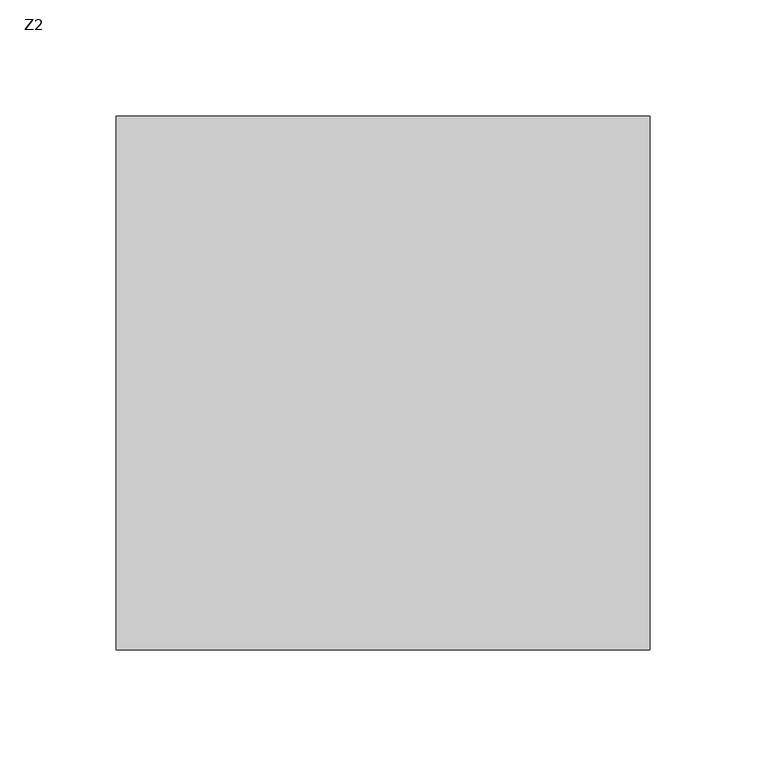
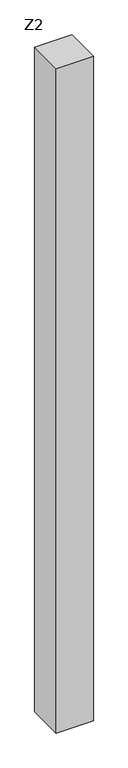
"""IFC4 building model written with IfcOpenShell, lengths in millimetres: column geometry, 混凝土 - 矩形 - 柱 : Z2."""

from ifc_helpers import new_model, si_unit, frame, origin, place, context, project, spatial, polyline, outline, extrude, source, transform, mapped, element, save


def z2_b35763e6(model_context):
    return source(origin(), model_context, "Body", "SweptSolid", [
        extrude(outline(polyline([(115.0, 115.0), (115.0, -115.0), (-115.0, -115.0), (-115.0, 115.0), (115.0, 115.0)])), frame((0.0, 0.0, -450.0), z_axis=(0.0, 0.0, 1.0), x_axis=(1.0, 0.0, 0.0)), (0.0, 0.0, 1.0), 4350.0),
    ])


if __name__ == "__main__":
    model = new_model("IFC4")
    model_context = context("Model", 3, world=origin())
    ifc_project = project(units=[si_unit("LENGTHUNIT", "METRE", prefix="MILLI")], contexts=[model_context])
    site = spatial("IfcSite", under=ifc_project)
    building = spatial("IfcBuilding", under=site)
    placement = place(None, origin())
    z2_shape = z2_b35763e6(model_context)
    element("IfcColumn", 1, ObjectType="混凝土 - 矩形 - 柱 : Z2", at=placement, inside=building, context=model_context, shape_type="MappedRepresentation", body=[
        mapped(z2_shape, transform((0.0, 0.0, 0.0), x_axis=(1.0, 0.0, 0.0), y_axis=(0.0, 1.0, 0.0), z_axis=(0.0, 0.0, 1.0))),
    ])
    save(model, "model.ifc")
